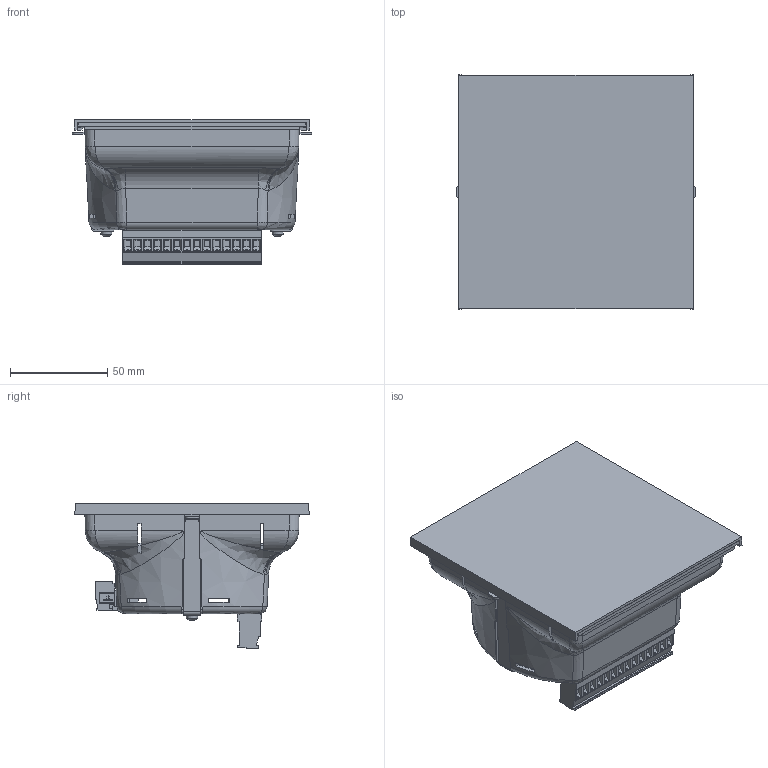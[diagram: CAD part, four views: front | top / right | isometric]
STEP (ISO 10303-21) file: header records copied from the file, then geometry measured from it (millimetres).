
FILE_DESCRIPTION(/* description */ (''),/* implementation_level */ '2;1');
FILE_NAME(/* name */ 'D:\WorkIMT\Project IMT\ИРИС 120\v4\Сайт\MT.IRIS120.01.stp',/* time_stamp */ '2022-03-15T10:59:47+03:00',/* author */ ('Иван'),/* organization */ (''),/* preprocessor_version */ 'ST-DEVELOPER v17.2',/* originating_system */ 'Autodesk Inventor 2019',/* authorisation */ '');
FILE_SCHEMA (('AUTOMOTIVE_DESIGN { 1 0 10303 214 3 1 1 }'));
Products named in the file (21): MT.IRIS120.01; MT.IRIS120.AU.CAP.11; МТ.ИРИС120.Д.
КРЫШКА.06; DIN 16903B-M3-BR; MT.IRIS120.D.PF.05; 2EDGKB-5.08-14P-14-00A(H); mvstbw_2.5_14-st-5.08; MT.IRIS120.D.FASTENING.03; МТ.ИРИС.120.PWR.04.
01.ЭС; MT_IRIS_120_PWR_v3_BoardAndModels; DesignRootModel; Submodel-2EDGRM-5.08-06P-14-00AH_4201324359_part_2EDGRM-5.08-06P-00AH; Submodel-noModelForPart_2EDGRM-5.08-06P-14-00AH_4201324359; placementOutline_27; Submodel-2EDGVC-5.08-14P-14-00AH_1155380843_part_2EDGVC-5.08-14P-14-0
0AH; Submodel-noModelForPart_2EDGVC-5.08-14P-14-00AH_1155380843; placementOutline_28; 2EDGKFM-5.08-06P-1000A; DIN 7985 (H) - M3x5-H; МТ.ИРИС-120.НАКЛЕЙКА.
01; МТ.ИРИС-120.НЗ.
01
Assembly tree (23 placements, depth 7):
  MT.IRIS120.01
    MT.IRIS120.AU.CAP.11
      МТ.ИРИС120.Д.
КРЫШКА.06
      DIN 16903B-M3-BR  x2
    MT.IRIS120.D.PF.05
    2EDGKB-5.08-14P-14-00A(H)
      mvstbw_2.5_14-st-5.08
    MT.IRIS120.D.FASTENING.03  x2
    МТ.ИРИС.120.PWR.04.
01.ЭС
      MT_IRIS_120_PWR_v3_BoardAndModels
        DesignRootModel
          Submodel-2EDGRM-5.08-06P-14-00AH_4201324359_part_2EDGRM-5.08-06P-00AH
            Submodel-noModelForPart_2EDGRM-5.08-06P-14-00AH_4201324359
              placementOutline_27
          Submodel-2EDGVC-5.08-14P-14-00AH_1155380843_part_2EDGVC-5.08-14P-14-0
0AH
            Submodel-noModelForPart_2EDGVC-5.08-14P-14-00AH_1155380843
              placementOutline_28
    2EDGKFM-5.08-06P-1000A
    DIN 7985 (H) - M3x5-H  x2
    МТ.ИРИС-120.НАКЛЕЙКА.
01
    МТ.ИРИС-120.НЗ.
01
Bounding box: 122.77 x 120.19 x 74.32 mm (x, y, z)
Volume: 116953.9 mm3; surface area: 152338.8 mm2
Topology: 20 solids, 20 shells, 3440 faces, 9454 edges, 6122 vertices
Faces by surface type: plane 2495, cylinder 669, bspline 116, cone 80, torus 52, sphere 28
Full cylindrical faces by diameter (mm): 0.457 x1, 1.4 x14, 1.8 x6, 2.4 x6, 2.459 x2, 2.75 x2, 2.8 x14, 3 x2, 3.05 x6, 3.3 x6, 3.5 x2, 3.783 x14, 3.85 x6, 3.967 x2, 4 x16, 4.1 x2
Entity records: 103966 total; most frequent: CARTESIAN_POINT 27761, ORIENTED_EDGE 15972, DIRECTION 14974, EDGE_CURVE 7986, LINE 5628, VECTOR 5628, VERTEX_POINT 5230, AXIS2_PLACEMENT_3D 4673
